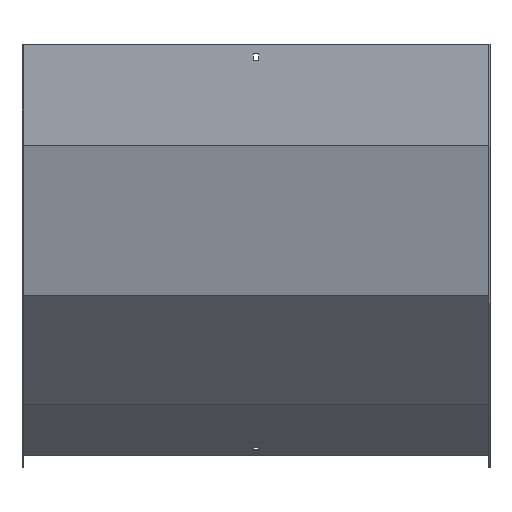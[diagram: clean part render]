
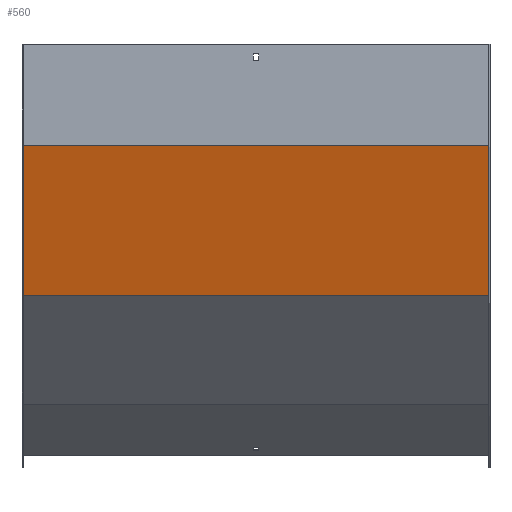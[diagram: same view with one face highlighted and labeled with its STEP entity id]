
A CAD part, front view. The second image highlights one B-rep face of the part: STEP entity #560.
In plain terms, the highlighted planar face has unit normal (0, -0.966, -0.259).
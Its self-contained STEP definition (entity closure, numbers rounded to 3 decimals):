
#6 = CARTESIAN_POINT ( 'NONE',  ( -300., -33.949, -9.097 ) ) ;
#39 = CARTESIAN_POINT ( 'NONE',  ( 300., -1.5, -130.197 ) ) ;
#86 = EDGE_CURVE ( 'NONE', #183, #587, #926, .T. ) ;
#122 = LINE ( 'NONE', #445, #936 ) ;
#140 = DIRECTION ( 'NONE',  ( 0., 0.966, 0.259 ) ) ;
#161 = DIRECTION ( 'NONE',  ( 0., 0.259, -0.966 ) ) ;
#183 = VERTEX_POINT ( 'NONE', #493 ) ;
#228 = DIRECTION ( 'NONE',  ( -1., 0., 0. ) ) ;
#265 = VERTEX_POINT ( 'NONE', #350 ) ;
#301 = CARTESIAN_POINT ( 'NONE',  ( 301.5, 50.16, -322.996 ) ) ;
#317 = ORIENTED_EDGE ( 'NONE', *, *, #446, .F. ) ;
#322 = EDGE_LOOP ( 'NONE', ( #727, #477, #317, #950 ) ) ;
#350 = CARTESIAN_POINT ( 'NONE',  ( 300., 50.16, -322.996 ) ) ;
#373 = DIRECTION ( 'NONE',  ( 0., -0.259, 0.966 ) ) ;
#445 = CARTESIAN_POINT ( 'NONE',  ( 301.5, -1.5, -130.197 ) ) ;
#446 = EDGE_CURVE ( 'NONE', #639, #265, #682, .T. ) ;
#477 = ORIENTED_EDGE ( 'NONE', *, *, #701, .F. ) ;
#493 = CARTESIAN_POINT ( 'NONE',  ( -300., -1.5, -130.197 ) ) ;
#526 = FACE_OUTER_BOUND ( 'NONE', #322, .T. ) ;
#528 = LINE ( 'NONE', #301, #646 ) ;
#560 = ADVANCED_FACE ( 'NONE', ( #526 ), #766, .F. ) ;
#587 = VERTEX_POINT ( 'NONE', #624 ) ;
#624 = CARTESIAN_POINT ( 'NONE',  ( -300., 50.16, -322.996 ) ) ;
#628 = AXIS2_PLACEMENT_3D ( 'NONE', #747, #140, #373 ) ;
#639 = VERTEX_POINT ( 'NONE', #39 ) ;
#646 = VECTOR ( 'NONE', #836, 1000. ) ;
#682 = LINE ( 'NONE', #983, #792 ) ;
#701 = EDGE_CURVE ( 'NONE', #265, #587, #528, .T. ) ;
#727 = ORIENTED_EDGE ( 'NONE', *, *, #86, .T. ) ;
#747 = CARTESIAN_POINT ( 'NONE',  ( 301.5, -1.449, -130.388 ) ) ;
#766 = PLANE ( 'NONE',  #628 ) ;
#792 = VECTOR ( 'NONE', #798, 1000. ) ;
#798 = DIRECTION ( 'NONE',  ( 0., 0.259, -0.966 ) ) ;
#836 = DIRECTION ( 'NONE',  ( -1., 0., 0. ) ) ;
#844 = EDGE_CURVE ( 'NONE', #639, #183, #122, .T. ) ;
#926 = LINE ( 'NONE', #6, #944 ) ;
#936 = VECTOR ( 'NONE', #228, 1000. ) ;
#944 = VECTOR ( 'NONE', #161, 1000. ) ;
#950 = ORIENTED_EDGE ( 'NONE', *, *, #844, .T. ) ;
#983 = CARTESIAN_POINT ( 'NONE',  ( 300., -33.949, -9.097 ) ) ;
